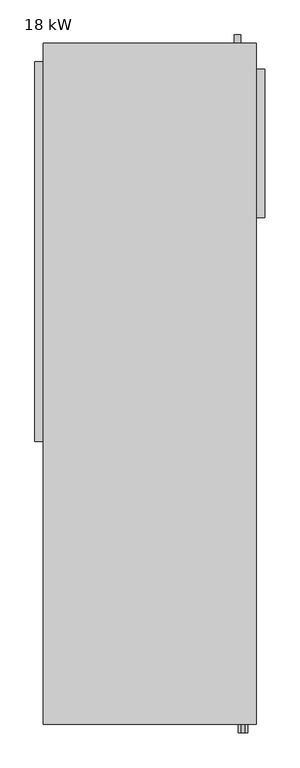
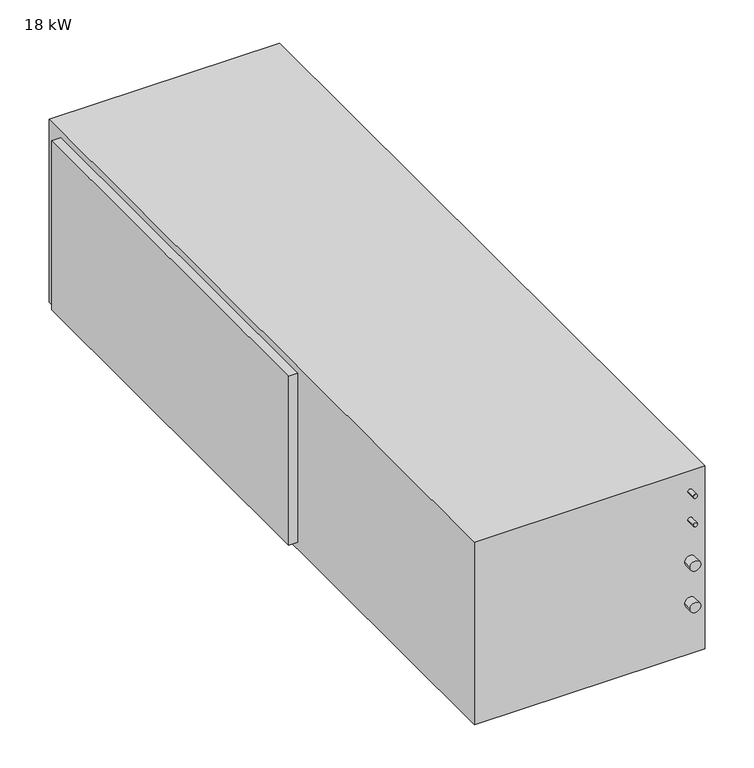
"""IFC4 building model written with IfcOpenShell, lengths in millimetres: proxy geometry, M_WSHP - Horizontal - High Efficiency - 7-18 kW - Left Return - Right Discharge : 18 kW."""

from ifc_helpers import new_model, si_unit, frame, origin, place, context, project, spatial, circle_curve, source, transform, mapped, element, save
from ifc_brep_helpers import plane_surface, cylinder_surface, advanced_brep


def proxy_18_kw_5151a8b0(model_context):
    return source(origin(), model_context, "Body", "AdvancedBrep", [
        advanced_brep(
        [(-25.4, 856.6, 20.5), (-25.4, 856.6, 520.5), (-25.4, 2006.6, 520.5), (-25.4, 2006.6, 20.5), (0.0, 2006.6, 20.5), (0.0, 856.6, 20.5), (0.0, 2006.6, 520.5), (0.0, 856.6, 520.5), (598.46, -25.4, 480.0), (610.46, -25.4, 480.0), (598.46, 0.0, 480.0), (610.46, 0.0, 480.0), (598.46, -25.4, 396.3), (610.46, -25.4, 396.3), (598.46, 0.0, 396.3), (610.46, 0.0, 396.3), (589.46, -25.4, 274.3), (619.46, -25.4, 274.3), (589.46, 0.0, 274.3), (619.46, 0.0, 274.3), (589.46, -25.4, 151.4), (619.46, -25.4, 151.4), (589.46, 0.0, 151.4), (619.46, 0.0, 151.4), (577.95, 2087.9, 86.36), (597.95, 2087.9, 86.36), (597.95, 2062.5, 86.36), (577.95, 2062.5, 86.36), (645.1, 0.0, 541.0), (645.1, 2062.5, 541.0), (0.0, 2062.5, 541.0), (0.0, 0.0, 541.0), (645.1, 0.0, 0.0), (0.0, 0.0, 0.0), (0.0, 2062.5, 0.0), (645.1, 2062.5, 0.0), (645.1, 1983.7, 500.4), (645.1, 1983.7, 25.4), (645.1, 1533.7, 25.4), (645.1, 1533.7, 500.4), (670.5, 1983.7, 25.4), (670.5, 1983.7, 500.4), (670.5, 1533.7, 500.4), (670.5, 1533.7, 25.4)],
        [
            (0, 1),
            (1, 2),
            (2, 3),
            (3, 0),
            (3, 4),
            (4, 5),
            (5, 0),
            (2, 6),
            (6, 4),
            (1, 7),
            (7, 6),
            (5, 7),
            (8, 9, circle_curve(frame((604.46, -25.4, 480.0), z_axis=(0.0, -1.0, 0.0), x_axis=(1.0, 0.0, 0.0)), 6.0)),
            (9, 8, circle_curve(frame((604.46, -25.4, 480.0), z_axis=(0.0, -1.0, 0.0), x_axis=(1.0, 0.0, 0.0)), 6.0)),
            (8, 10),
            (10, 11, circle_curve(frame((604.46, 0.0, 480.0), z_axis=(0.0, -1.0, 0.0), x_axis=(1.0, 0.0, 0.0)), 6.0)),
            (11, 9),
            (11, 10, circle_curve(frame((604.46, 0.0, 480.0), z_axis=(0.0, -1.0, 0.0), x_axis=(1.0, 0.0, 0.0)), 6.0)),
            (12, 13, circle_curve(frame((604.46, -25.4, 396.3), z_axis=(0.0, -1.0, 0.0), x_axis=(1.0, 0.0, 0.0)), 6.0)),
            (13, 12, circle_curve(frame((604.46, -25.4, 396.3), z_axis=(0.0, -1.0, 0.0), x_axis=(1.0, 0.0, 0.0)), 6.0)),
            (12, 14),
            (14, 15, circle_curve(frame((604.46, 0.0, 396.3), z_axis=(0.0, -1.0, 0.0), x_axis=(1.0, 0.0, 0.0)), 6.0)),
            (15, 13),
            (15, 14, circle_curve(frame((604.46, 0.0, 396.3), z_axis=(0.0, -1.0, 0.0), x_axis=(1.0, 0.0, 0.0)), 6.0)),
            (16, 17, circle_curve(frame((604.46, -25.4, 274.3), z_axis=(0.0, -1.0, 0.0), x_axis=(1.0, 0.0, 0.0)), 15.0)),
            (17, 16, circle_curve(frame((604.46, -25.4, 274.3), z_axis=(0.0, -1.0, 0.0), x_axis=(1.0, 0.0, 0.0)), 15.0)),
            (16, 18),
            (18, 19, circle_curve(frame((604.46, 0.0, 274.3), z_axis=(0.0, -1.0, 0.0), x_axis=(1.0, 0.0, 0.0)), 15.0)),
            (19, 17),
            (19, 18, circle_curve(frame((604.46, 0.0, 274.3), z_axis=(0.0, -1.0, 0.0), x_axis=(1.0, 0.0, 0.0)), 15.0)),
            (20, 21, circle_curve(frame((604.46, -25.4, 151.4), z_axis=(0.0, -1.0, 0.0), x_axis=(1.0, 0.0, 0.0)), 15.0)),
            (21, 20, circle_curve(frame((604.46, -25.4, 151.4), z_axis=(0.0, -1.0, 0.0), x_axis=(1.0, 0.0, 0.0)), 15.0)),
            (20, 22),
            (22, 23, circle_curve(frame((604.46, 0.0, 151.4), z_axis=(0.0, -1.0, 0.0), x_axis=(1.0, 0.0, 0.0)), 15.0)),
            (23, 21),
            (23, 22, circle_curve(frame((604.46, 0.0, 151.4), z_axis=(0.0, -1.0, 0.0), x_axis=(1.0, 0.0, 0.0)), 15.0)),
            (24, 25, circle_curve(frame((587.95, 2087.9, 86.36), z_axis=(0.0, 1.0, 0.0), x_axis=(1.0, 0.0, 0.0)), 10.0)),
            (25, 24, circle_curve(frame((587.95, 2087.9, 86.36), z_axis=(0.0, 1.0, 0.0), x_axis=(1.0, 0.0, 0.0)), 10.0)),
            (25, 26),
            (26, 27, circle_curve(frame((587.95, 2062.5, 86.36), z_axis=(0.0, 1.0, 0.0), x_axis=(1.0, 0.0, 0.0)), 10.0)),
            (27, 24),
            (27, 26, circle_curve(frame((587.95, 2062.5, 86.36), z_axis=(0.0, 1.0, 0.0), x_axis=(1.0, 0.0, 0.0)), 10.0)),
            (28, 29),
            (29, 30),
            (30, 31),
            (31, 28),
            (32, 33),
            (33, 34),
            (34, 35),
            (35, 32),
            (28, 32),
            (35, 29),
            (36, 37),
            (37, 38),
            (38, 39),
            (39, 36),
            (34, 30),
            (33, 31),
            (40, 41),
            (41, 42),
            (42, 43),
            (43, 40),
            (40, 37),
            (36, 41),
            (39, 42),
            (38, 43),
        ],
        [
            plane_surface(frame((-25.4, 2006.6, 20.5), z_axis=(-1.0, 0.0, 0.0), x_axis=(0.0, -1.0, 0.0))),
            plane_surface(frame((0.0, 856.6, 20.5), z_axis=(0.0, 0.0, -1.0), x_axis=(-1.0, 0.0, 0.0))),
            plane_surface(frame((0.0, 2006.6, 20.5), z_axis=(0.0, 1.0, 0.0), x_axis=(-1.0, 0.0, 0.0))),
            plane_surface(frame((0.0, 2006.6, 520.5), z_axis=(0.0, 0.0, 1.0), x_axis=(-1.0, 0.0, 0.0))),
            plane_surface(frame((0.0, 856.6, 520.5), z_axis=(0.0, -1.0, 0.0), x_axis=(-1.0, 0.0, 0.0))),
            plane_surface(frame((610.46, -25.4, 480.0), z_axis=(0.0, -1.0, 0.0), x_axis=(0.0, 0.0, 1.0))),
            cylinder_surface(frame((604.46, 0.0, 480.0), z_axis=(0.0, -1.0, 0.0), x_axis=(1.0, 0.0, 0.0)), 6.0),
            plane_surface(frame((610.46, -25.4, 396.3), z_axis=(0.0, -1.0, 0.0), x_axis=(0.0, 0.0, 1.0))),
            cylinder_surface(frame((604.46, 0.0, 396.3), z_axis=(0.0, -1.0, 0.0), x_axis=(1.0, 0.0, 0.0)), 6.0),
            plane_surface(frame((619.46, -25.4, 274.3), z_axis=(0.0, -1.0, 0.0), x_axis=(0.0, 0.0, 1.0))),
            cylinder_surface(frame((604.46, 0.0, 274.3), z_axis=(0.0, -1.0, 0.0), x_axis=(1.0, 0.0, 0.0)), 15.0),
            plane_surface(frame((619.46, -25.4, 151.4), z_axis=(0.0, -1.0, 0.0), x_axis=(0.0, 0.0, 1.0))),
            cylinder_surface(frame((604.46, 0.0, 151.4), z_axis=(0.0, -1.0, 0.0), x_axis=(1.0, 0.0, 0.0)), 15.0),
            plane_surface(frame((597.95, 2087.9, 86.36), z_axis=(0.0, 1.0, 0.0), x_axis=(0.0, 0.0, -1.0))),
            cylinder_surface(frame((587.95, 2087.9, 86.36), z_axis=(0.0, -1.0, 0.0), x_axis=(1.0, 0.0, 0.0)), 10.0),
            plane_surface(frame((645.1, 0.0, 541.0), z_axis=(0.0, 0.0, 1.0), x_axis=(0.0, 1.0, 0.0))),
            plane_surface(frame((645.1, 0.0, 0.0), z_axis=(0.0, 0.0, -1.0), x_axis=(0.0, -1.0, 0.0))),
            plane_surface(frame((645.1, 0.0, 541.0), z_axis=(1.0, 0.0, 0.0), x_axis=(0.0, 0.0, -1.0))),
            plane_surface(frame((645.1, 2062.5, 541.0), z_axis=(0.0, 1.0, 0.0), x_axis=(0.0, 0.0, -1.0))),
            plane_surface(frame((0.0, 2062.5, 541.0), z_axis=(-1.0, 0.0, 0.0), x_axis=(0.0, 0.0, -1.0))),
            plane_surface(frame((0.0, 0.0, 541.0), z_axis=(0.0, -1.0, 0.0), x_axis=(0.0, 0.0, -1.0))),
            plane_surface(frame((670.5, 1983.7, 25.4), z_axis=(1.0, 0.0, 0.0), x_axis=(0.0, 0.0, 1.0))),
            plane_surface(frame((670.5, 1983.7, 25.4), z_axis=(0.0, 1.0, 0.0), x_axis=(-1.0, 0.0, 0.0))),
            plane_surface(frame((670.5, 1983.7, 500.4), z_axis=(0.0, 0.0, 1.0), x_axis=(-1.0, 0.0, 0.0))),
            plane_surface(frame((670.5, 1533.7, 500.4), z_axis=(0.0, -1.0, 0.0), x_axis=(-1.0, 0.0, 0.0))),
            plane_surface(frame((670.5, 1533.7, 25.4), z_axis=(0.0, 0.0, -1.0), x_axis=(-1.0, 0.0, 0.0))),
        ],
        [
            (0, [[1, 2, 3, 4]]),
            (1, [[-4, 5, 6, 7]]),
            (2, [[-3, 8, 9, -5]]),
            (3, [[-2, 10, 11, -8]]),
            (4, [[-1, -7, 12, -10]]),
            (5, [[13, 14]]),
            (6, [[-13, 15, 16, 17]]),
            (6, [[-14, -17, 18, -15]]),
            (7, [[19, 20]]),
            (8, [[-19, 21, 22, 23]]),
            (8, [[-20, -23, 24, -21]]),
            (9, [[25, 26]]),
            (10, [[-25, 27, 28, 29]]),
            (10, [[-26, -29, 30, -27]]),
            (11, [[31, 32]]),
            (12, [[-31, 33, 34, 35]]),
            (12, [[-32, -35, 36, -33]]),
            (13, [[37, 38]]),
            (14, [[-38, 39, 40, 41]]),
            (14, [[-37, -41, 42, -39]]),
            (15, [[43, 44, 45, 46]]),
            (16, [[47, 48, 49, 50]]),
            (17, [[-43, 51, -50, 52], [53, 54, 55, 56]]),
            (18, [[-44, -52, -49, 57], [-40, -42]]),
            (19, [[-45, -57, -48, 58], [-6, -9, -11, -12]]),
            (20, [[-46, -58, -47, -51], [-16, -18], [-22, -24], [-28, -30], [-34, -36]]),
            (21, [[59, 60, 61, 62]]),
            (22, [[-59, 63, -53, 64]]),
            (23, [[-60, -64, -56, 65]]),
            (24, [[-61, -65, -55, 66]]),
            (25, [[-62, -66, -54, -63]]),
        ],
    ),
    ])


if __name__ == "__main__":
    model = new_model("IFC4")
    model_context = context("Model", 3, world=origin())
    ifc_project = project(units=[si_unit("LENGTHUNIT", "METRE", prefix="MILLI")], contexts=[model_context])
    site = spatial("IfcSite", under=ifc_project)
    building = spatial("IfcBuilding", under=site)
    placement = place(None, origin())
    proxy_18_kw_shape = proxy_18_kw_5151a8b0(model_context)
    element("IfcBuildingElementProxy", 1, Name="M_WSHP - Horizontal - High Efficiency - 7-18 kW - Left Return - Right Discharge : 18 kW", ObjectType="M_WSHP - Horizontal - High Efficiency - 7-18 kW - Left Return - Right Discharge : 18 kW", at=placement, inside=building, context=model_context, shape_type="MappedRepresentation", body=[
        mapped(proxy_18_kw_shape, transform((0.0, 0.0, 0.0), x_axis=(1.0, 0.0, 0.0), y_axis=(0.0, 1.0, 0.0), z_axis=(0.0, 0.0, 1.0))),
    ])
    save(model, "model.ifc")
